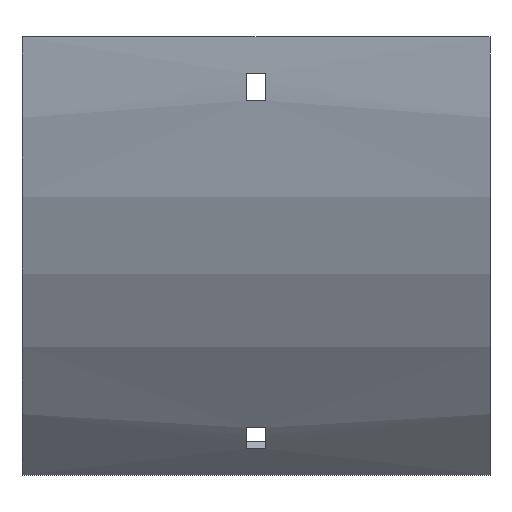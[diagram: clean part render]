
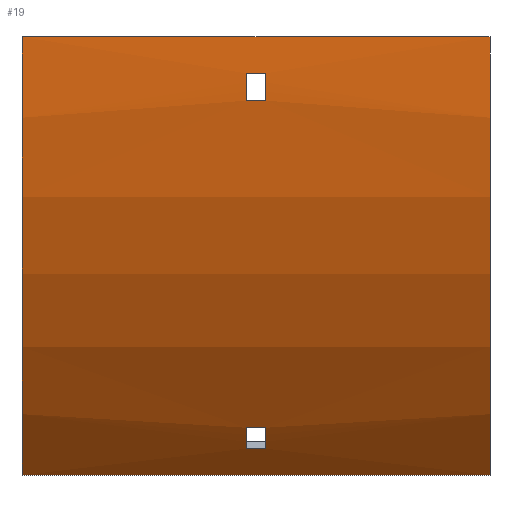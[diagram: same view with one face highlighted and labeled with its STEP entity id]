
A CAD part, front view. The second image highlights one B-rep face of the part: STEP entity #19.
In plain terms, the highlighted cylindrical face has radius 204 mm (diameter 408 mm), a partial arc.
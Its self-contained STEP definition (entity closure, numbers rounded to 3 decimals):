
#19 = ADVANCED_FACE ( 'NONE', ( #524, #1573, #669 ), #1312, .T. ) ;
#32 = DIRECTION ( 'NONE',  ( 0., 0., -1. ) ) ;
#34 = CIRCLE ( 'NONE', #698, 204. ) ;
#37 = ORIENTED_EDGE ( 'NONE', *, *, #1069, .T. ) ;
#47 = CARTESIAN_POINT ( 'NONE',  ( 77., -104., 0. ) ) ;
#52 = DIRECTION ( 'NONE',  ( 1., 0., 0. ) ) ;
#64 = ORIENTED_EDGE ( 'NONE', *, *, #681, .T. ) ;
#96 = AXIS2_PLACEMENT_3D ( 'NONE', #583, #848, #1102 ) ;
#119 = DIRECTION ( 'NONE',  ( -1., 0., 0. ) ) ;
#121 = LINE ( 'NONE', #1592, #1090 ) ;
#127 = CARTESIAN_POINT ( 'NONE',  ( 77., 100., 0. ) ) ;
#136 = VERTEX_POINT ( 'NONE', #1039 ) ;
#140 = EDGE_CURVE ( 'NONE', #1406, #422, #121, .T. ) ;
#148 = VERTEX_POINT ( 'NONE', #1567 ) ;
#158 = CARTESIAN_POINT ( 'NONE',  ( 77., -44.25, -144.25 ) ) ;
#182 = DIRECTION ( 'NONE',  ( 1., 0., 0. ) ) ;
#202 = ORIENTED_EDGE ( 'NONE', *, *, #566, .T. ) ;
#208 = DIRECTION ( 'NONE',  ( 1., 0., 0. ) ) ;
#211 = EDGE_CURVE ( 'NONE', #422, #562, #1227, .T. ) ;
#213 = EDGE_CURVE ( 'NONE', #1631, #894, #352, .T. ) ;
#222 = VECTOR ( 'NONE', #1138, 1000. ) ;
#243 = CARTESIAN_POINT ( 'NONE',  ( -3.25, -52.485, -135.515 ) ) ;
#259 = DIRECTION ( 'NONE',  ( 1., 0., 0. ) ) ;
#262 = DIRECTION ( 'NONE',  ( -1., 0., 0. ) ) ;
#285 = VERTEX_POINT ( 'NONE', #874 ) ;
#327 = AXIS2_PLACEMENT_3D ( 'NONE', #127, #408, #1184 ) ;
#337 = VECTOR ( 'NONE', #699, 1000. ) ;
#352 = CIRCLE ( 'NONE', #1359, 204. ) ;
#398 = EDGE_CURVE ( 'NONE', #1047, #285, #1673, .T. ) ;
#402 = LINE ( 'NONE', #1071, #1159 ) ;
#408 = DIRECTION ( 'NONE',  ( -1., 0., 0. ) ) ;
#422 = VERTEX_POINT ( 'NONE', #516 ) ;
#454 = CARTESIAN_POINT ( 'NONE',  ( 77., -104., 0. ) ) ;
#473 = DIRECTION ( 'NONE',  ( -1., 0., 0. ) ) ;
#477 = CIRCLE ( 'NONE', #722, 204. ) ;
#496 = LINE ( 'NONE', #1425, #222 ) ;
#497 = ORIENTED_EDGE ( 'NONE', *, *, #1114, .F. ) ;
#516 = CARTESIAN_POINT ( 'NONE',  ( 3.25, -52.485, -135.515 ) ) ;
#524 = FACE_OUTER_BOUND ( 'NONE', #704, .T. ) ;
#550 = CARTESIAN_POINT ( 'NONE',  ( 3.25, -58.333, -128.634 ) ) ;
#562 = VERTEX_POINT ( 'NONE', #550 ) ;
#566 = EDGE_CURVE ( 'NONE', #694, #148, #402, .T. ) ;
#571 = EDGE_LOOP ( 'NONE', ( #1348, #679, #1371, #1334 ) ) ;
#583 = CARTESIAN_POINT ( 'NONE',  ( 3.25, 100., 0. ) ) ;
#642 = CARTESIAN_POINT ( 'NONE',  ( 77., -103.647, -12. ) ) ;
#647 = ORIENTED_EDGE ( 'NONE', *, *, #398, .T. ) ;
#652 = DIRECTION ( 'NONE',  ( 0., 0., 1. ) ) ;
#669 = FACE_BOUND ( 'NONE', #571, .T. ) ;
#679 = ORIENTED_EDGE ( 'NONE', *, *, #1606, .F. ) ;
#681 = EDGE_CURVE ( 'NONE', #148, #1047, #1238, .T. ) ;
#694 = VERTEX_POINT ( 'NONE', #1474 ) ;
#697 = VECTOR ( 'NONE', #473, 1000. ) ;
#698 = AXIS2_PLACEMENT_3D ( 'NONE', #774, #259, #1058 ) ;
#699 = DIRECTION ( 'NONE',  ( -1., 0., 0. ) ) ;
#704 = EDGE_LOOP ( 'NONE', ( #877, #1249, #497, #37 ) ) ;
#722 = AXIS2_PLACEMENT_3D ( 'NONE', #1614, #1498, #32 ) ;
#745 = CARTESIAN_POINT ( 'NONE',  ( 77., -44.25, -144.25 ) ) ;
#774 = CARTESIAN_POINT ( 'NONE',  ( -3.25, 100., 0. ) ) ;
#822 = DIRECTION ( 'NONE',  ( 0., 0., -1. ) ) ;
#845 = EDGE_LOOP ( 'NONE', ( #202, #64, #647, #1158 ) ) ;
#848 = DIRECTION ( 'NONE',  ( -1., 0., 0. ) ) ;
#874 = CARTESIAN_POINT ( 'NONE',  ( 3.25, -103.647, -12. ) ) ;
#877 = ORIENTED_EDGE ( 'NONE', *, *, #213, .T. ) ;
#894 = VERTEX_POINT ( 'NONE', #1375 ) ;
#906 = LINE ( 'NONE', #47, #337 ) ;
#948 = EDGE_CURVE ( 'NONE', #136, #1406, #34, .T. ) ;
#950 = AXIS2_PLACEMENT_3D ( 'NONE', #1349, #52, #822 ) ;
#977 = CARTESIAN_POINT ( 'NONE',  ( -77., 100., 0. ) ) ;
#1039 = CARTESIAN_POINT ( 'NONE',  ( -3.25, -58.333, -128.634 ) ) ;
#1047 = VERTEX_POINT ( 'NONE', #1183 ) ;
#1058 = DIRECTION ( 'NONE',  ( 0., 0., -1. ) ) ;
#1069 = EDGE_CURVE ( 'NONE', #1080, #1631, #906, .T. ) ;
#1071 = CARTESIAN_POINT ( 'NONE',  ( 77., -102.916, -21. ) ) ;
#1079 = CARTESIAN_POINT ( 'NONE',  ( -3.25, 100., 0. ) ) ;
#1080 = VERTEX_POINT ( 'NONE', #454 ) ;
#1087 = VERTEX_POINT ( 'NONE', #158 ) ;
#1090 = VECTOR ( 'NONE', #1427, 1000. ) ;
#1102 = DIRECTION ( 'NONE',  ( 0., 0., 1. ) ) ;
#1110 = EDGE_CURVE ( 'NONE', #285, #694, #477, .T. ) ;
#1114 = EDGE_CURVE ( 'NONE', #1080, #1087, #1220, .T. ) ;
#1138 = DIRECTION ( 'NONE',  ( -1., 0., 0. ) ) ;
#1158 = ORIENTED_EDGE ( 'NONE', *, *, #1110, .T. ) ;
#1159 = VECTOR ( 'NONE', #262, 1000. ) ;
#1183 = CARTESIAN_POINT ( 'NONE',  ( -3.25, -103.647, -12. ) ) ;
#1184 = DIRECTION ( 'NONE',  ( 0., 0., 1. ) ) ;
#1220 = CIRCLE ( 'NONE', #950, 204. ) ;
#1227 = CIRCLE ( 'NONE', #96, 204. ) ;
#1238 = CIRCLE ( 'NONE', #1459, 204. ) ;
#1249 = ORIENTED_EDGE ( 'NONE', *, *, #1293, .F. ) ;
#1276 = VECTOR ( 'NONE', #208, 1000. ) ;
#1293 = EDGE_CURVE ( 'NONE', #1087, #894, #1632, .T. ) ;
#1312 = CYLINDRICAL_SURFACE ( 'NONE', #327, 204. ) ;
#1334 = ORIENTED_EDGE ( 'NONE', *, *, #140, .F. ) ;
#1348 = ORIENTED_EDGE ( 'NONE', *, *, #948, .F. ) ;
#1349 = CARTESIAN_POINT ( 'NONE',  ( 77., 100., 0. ) ) ;
#1359 = AXIS2_PLACEMENT_3D ( 'NONE', #977, #182, #1625 ) ;
#1371 = ORIENTED_EDGE ( 'NONE', *, *, #211, .F. ) ;
#1375 = CARTESIAN_POINT ( 'NONE',  ( -77., -44.25, -144.25 ) ) ;
#1406 = VERTEX_POINT ( 'NONE', #243 ) ;
#1425 = CARTESIAN_POINT ( 'NONE',  ( 77., -58.333, -128.634 ) ) ;
#1427 = DIRECTION ( 'NONE',  ( 1., 0., 0. ) ) ;
#1459 = AXIS2_PLACEMENT_3D ( 'NONE', #1079, #119, #652 ) ;
#1474 = CARTESIAN_POINT ( 'NONE',  ( 3.25, -102.916, -21. ) ) ;
#1498 = DIRECTION ( 'NONE',  ( 1., 0., 0. ) ) ;
#1567 = CARTESIAN_POINT ( 'NONE',  ( -3.25, -102.916, -21. ) ) ;
#1573 = FACE_BOUND ( 'NONE', #845, .T. ) ;
#1592 = CARTESIAN_POINT ( 'NONE',  ( 77., -52.485, -135.515 ) ) ;
#1606 = EDGE_CURVE ( 'NONE', #562, #136, #496, .T. ) ;
#1614 = CARTESIAN_POINT ( 'NONE',  ( 3.25, 100., 0. ) ) ;
#1625 = DIRECTION ( 'NONE',  ( 0., 0., -1. ) ) ;
#1631 = VERTEX_POINT ( 'NONE', #1654 ) ;
#1632 = LINE ( 'NONE', #745, #697 ) ;
#1654 = CARTESIAN_POINT ( 'NONE',  ( -77., -104., 0. ) ) ;
#1673 = LINE ( 'NONE', #642, #1276 ) ;
